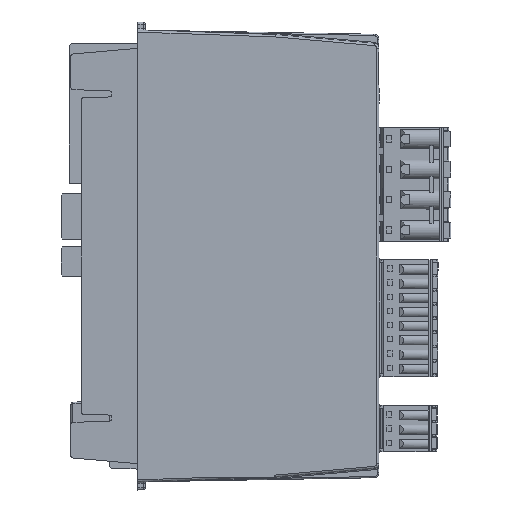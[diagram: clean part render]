
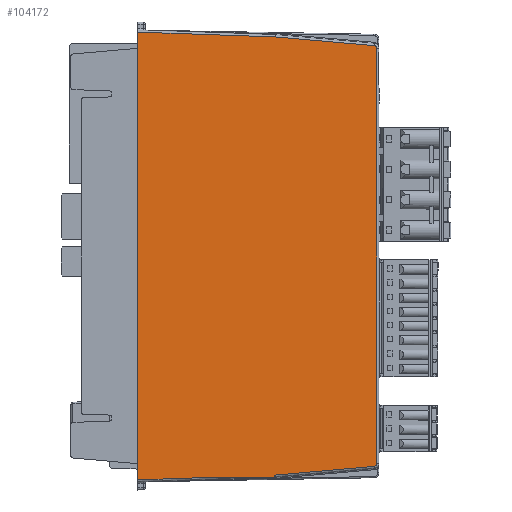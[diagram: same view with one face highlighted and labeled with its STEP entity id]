
A CAD part, left-side view. The second image highlights one B-rep face of the part: STEP entity #104172.
In plain terms, the highlighted planar face has unit normal (-1, -0.018, 0).
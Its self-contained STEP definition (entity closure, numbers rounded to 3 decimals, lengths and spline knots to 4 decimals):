
#750=ELLIPSE('',#111542,0.0315,0.0315);
#751=ELLIPSE('',#111543,0.0315,0.0315);
#4985=PLANE('',#111541);
#10827=FACE_OUTER_BOUND('',#16471,.T.);
#16471=EDGE_LOOP('',(#90046,#90047,#90048,#90049,#90050,#90051,#90052,#90053,
#90054,#90055,#90056,#90057,#90058));
#29496=LINE('',#169100,#40644);
#29509=LINE('',#169172,#40657);
#29592=LINE('',#169511,#40740);
#29909=LINE('',#170739,#41057);
#29910=LINE('',#170741,#41058);
#29911=LINE('',#170745,#41059);
#29912=LINE('',#170749,#41060);
#29913=LINE('',#170751,#41061);
#29914=LINE('',#170753,#41062);
#29915=LINE('',#170755,#41063);
#29916=LINE('',#170756,#41064);
#40644=VECTOR('',#134971,0.3937);
#40657=VECTOR('',#135012,0.3937);
#40740=VECTOR('',#135281,39.3701);
#41057=VECTOR('',#136008,39.3701);
#41058=VECTOR('',#136009,39.3701);
#41059=VECTOR('',#136012,39.3701);
#41060=VECTOR('',#136015,39.3701);
#41061=VECTOR('',#136016,39.3701);
#41062=VECTOR('',#136017,39.3701);
#41063=VECTOR('',#136018,39.3701);
#41064=VECTOR('',#136019,39.3701);
#49789=VERTEX_POINT('',#169096);
#49791=VERTEX_POINT('',#169099);
#49813=VERTEX_POINT('',#169167);
#49920=VERTEX_POINT('',#169510);
#50238=VERTEX_POINT('',#170738);
#50239=VERTEX_POINT('',#170740);
#50240=VERTEX_POINT('',#170742);
#50241=VERTEX_POINT('',#170744);
#50242=VERTEX_POINT('',#170746);
#50243=VERTEX_POINT('',#170748);
#50244=VERTEX_POINT('',#170750);
#50245=VERTEX_POINT('',#170752);
#50246=VERTEX_POINT('',#170754);
#63081=EDGE_CURVE('',#49789,#49791,#29496,.T.);
#63108=EDGE_CURVE('',#49791,#49813,#29509,.T.);
#63252=EDGE_CURVE('',#49920,#49813,#29592,.T.);
#63702=EDGE_CURVE('',#49789,#50238,#29909,.T.);
#63703=EDGE_CURVE('',#50238,#50239,#29910,.T.);
#63704=EDGE_CURVE('',#50239,#50240,#750,.T.);
#63705=EDGE_CURVE('',#50240,#50241,#29911,.T.);
#63706=EDGE_CURVE('',#50241,#50242,#751,.T.);
#63707=EDGE_CURVE('',#50242,#50243,#29912,.T.);
#63708=EDGE_CURVE('',#50243,#50244,#29913,.T.);
#63709=EDGE_CURVE('',#50244,#50245,#29914,.T.);
#63710=EDGE_CURVE('',#50246,#50245,#29915,.T.);
#63711=EDGE_CURVE('',#50246,#49920,#29916,.T.);
#90046=ORIENTED_EDGE('',*,*,#63702,.T.);
#90047=ORIENTED_EDGE('',*,*,#63703,.T.);
#90048=ORIENTED_EDGE('',*,*,#63704,.T.);
#90049=ORIENTED_EDGE('',*,*,#63705,.T.);
#90050=ORIENTED_EDGE('',*,*,#63706,.T.);
#90051=ORIENTED_EDGE('',*,*,#63707,.T.);
#90052=ORIENTED_EDGE('',*,*,#63708,.T.);
#90053=ORIENTED_EDGE('',*,*,#63709,.T.);
#90054=ORIENTED_EDGE('',*,*,#63710,.F.);
#90055=ORIENTED_EDGE('',*,*,#63711,.T.);
#90056=ORIENTED_EDGE('',*,*,#63252,.T.);
#90057=ORIENTED_EDGE('',*,*,#63108,.F.);
#90058=ORIENTED_EDGE('',*,*,#63081,.F.);
#104172=ADVANCED_FACE('',(#10827),#4985,.T.);
#111541=AXIS2_PLACEMENT_3D('',#170737,#136006,#136007);
#111542=AXIS2_PLACEMENT_3D('',#170743,#136010,#136011);
#111543=AXIS2_PLACEMENT_3D('',#170747,#136013,#136014);
#134971=DIRECTION('',(0.,0.,-1.));
#135012=DIRECTION('',(-0.017,1.,0.));
#135281=DIRECTION('',(0.017,-0.999,0.035));
#136006=DIRECTION('center_axis',(-1.,-0.017,
0.));
#136007=DIRECTION('ref_axis',(-0.017,1.,0.));
#136008=DIRECTION('',(0.017,-0.999,0.035));
#136009=DIRECTION('',(0.017,-0.996,0.087));
#136010=DIRECTION('center_axis',(-1.,-0.017,
0.));
#136011=DIRECTION('ref_axis',(0.017,-1.,0.));
#136012=DIRECTION('',(0.,0.,1.));
#136013=DIRECTION('center_axis',(-1.,-0.017,
0.));
#136014=DIRECTION('ref_axis',(0.017,-1.,0.));
#136015=DIRECTION('',(-0.017,0.996,0.087));
#136016=DIRECTION('',(-0.017,0.999,0.035));
#136017=DIRECTION('',(0.,0.,-1.));
#136018=DIRECTION('',(0.,0.,1.));
#136019=DIRECTION('',(0.,0.,-1.));
#169096=CARTESIAN_POINT('',(0.0005,-2.2096,-4.1958));
#169099=CARTESIAN_POINT('',(0.0005,-2.2096,-4.2206));
#169100=CARTESIAN_POINT('',(0.0005,-2.2096,-3.155));
#169167=CARTESIAN_POINT('',(-0.0119,-1.4997,-4.2206));
#169172=CARTESIAN_POINT('',(-0.0131,-1.4351,-4.2206));
#169510=CARTESIAN_POINT('',(-0.0227,-0.8827,-4.2421));
#169511=CARTESIAN_POINT('',(-0.0282,-0.5654,-4.2532));
#170737=CARTESIAN_POINT('Origin',(-0.0296,-0.489,
-2.0669));
#170738=CARTESIAN_POINT('',(0.0007,-2.2205,-4.1954));
#170739=CARTESIAN_POINT('',(-0.0282,-0.5654,-4.2532));
#170740=CARTESIAN_POINT('',(0.0174,-3.1772,-4.1117));
#170741=CARTESIAN_POINT('',(-0.0261,-0.6869,-4.3296));
#170742=CARTESIAN_POINT('',(0.0179,-3.2059,-4.0803));
#170743=CARTESIAN_POINT('Origin',(0.0173,-3.1744,
-4.0803));
#170744=CARTESIAN_POINT('',(0.0179,-3.2059,-0.0535));
#170745=CARTESIAN_POINT('',(0.0179,-3.2059,-0.0535));
#170746=CARTESIAN_POINT('',(0.0174,-3.1772,-0.0221));
#170747=CARTESIAN_POINT('Origin',(0.0173,-3.1744,
-0.0535));
#170748=CARTESIAN_POINT('',(0.0007,-2.2205,0.0616));
#170749=CARTESIAN_POINT('',(-0.0261,-0.6869,0.1957));
#170750=CARTESIAN_POINT('',(-0.0227,-0.8827,0.1083));
#170751=CARTESIAN_POINT('',(-0.0282,-0.5654,0.1194));
#170752=CARTESIAN_POINT('',(-0.0227,-0.8827,-0.0312));
#170753=CARTESIAN_POINT('',(-0.0227,-0.8827,0.128));
#170754=CARTESIAN_POINT('',(-0.0227,-0.8827,-4.1027));
#170755=CARTESIAN_POINT('',(-0.0227,-0.8827,-7.5932));
#170756=CARTESIAN_POINT('',(-0.0227,-0.8827,0.128));
